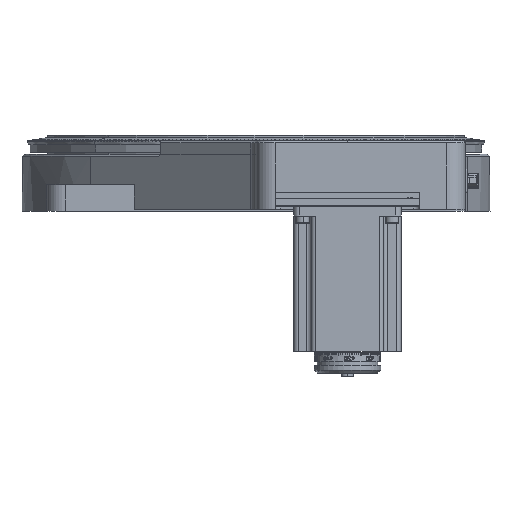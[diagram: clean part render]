
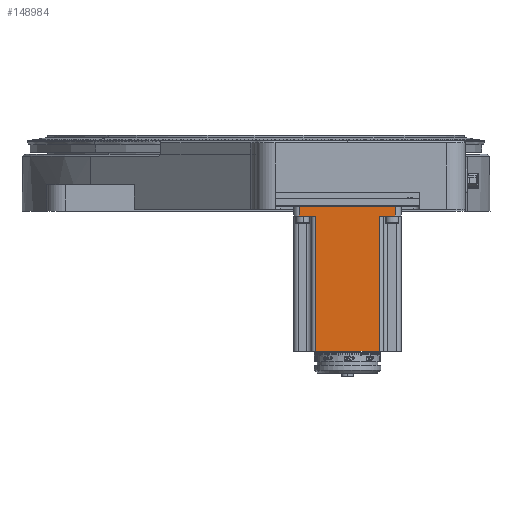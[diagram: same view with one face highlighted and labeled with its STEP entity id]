
A CAD part, left-side view. The second image highlights one B-rep face of the part: STEP entity #148984.
In plain terms, the highlighted planar face has unit normal (-1, 0, 0).
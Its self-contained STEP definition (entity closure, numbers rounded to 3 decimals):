
#148497=CARTESIAN_POINT('',(-209.2,-64.73,-73.5));
#148498=VERTEX_POINT('',#148497);
#148506=CARTESIAN_POINT('',(-209.2,-31.33,-73.5));
#148507=VERTEX_POINT('',#148506);
#148508=CARTESIAN_POINT('',(-209.2,-31.33,-73.5));
#148509=DIRECTION('',(0.0,-1.0,0.0));
#148510=VECTOR('',#148509,33.4);
#148511=LINE('',#148508,#148510);
#148512=EDGE_CURVE('',#148507,#148498,#148511,.T.);
#148854=CARTESIAN_POINT('',(-209.2,-31.33,-2.5));
#148855=VERTEX_POINT('',#148854);
#148856=CARTESIAN_POINT('',(-209.2,-31.33,-73.5));
#148857=DIRECTION('',(0.0,0.0,1.0));
#148858=VECTOR('',#148857,71.);
#148859=LINE('',#148856,#148858);
#148860=EDGE_CURVE('',#148507,#148855,#148859,.T.);
#148918=CARTESIAN_POINT('',(-209.2,-64.73,-2.5));
#148919=VERTEX_POINT('',#148918);
#148927=CARTESIAN_POINT('',(-209.2,-64.73,-2.5));
#148928=DIRECTION('',(0.0,0.0,-1.0));
#148929=VECTOR('',#148928,71.);
#148930=LINE('',#148927,#148929);
#148931=EDGE_CURVE('',#148919,#148498,#148930,.T.);
#148936=CARTESIAN_POINT('',(-209.2,-19.83,2.5));
#148937=DIRECTION('',(-1.0,0.0,0.0));
#148938=DIRECTION('',(0.0,0.0,1.0));
#148939=AXIS2_PLACEMENT_3D('',#148936,#148937,#148938);
#148940=PLANE('',#148939);
#148941=ORIENTED_EDGE('',*,*,#148860,.F.);
#148942=ORIENTED_EDGE('',*,*,#148512,.T.);
#148943=ORIENTED_EDGE('',*,*,#148931,.F.);
#148944=CARTESIAN_POINT('',(-209.2,-73.23,-2.5));
#148945=VERTEX_POINT('',#148944);
#148946=CARTESIAN_POINT('',(-209.2,-73.23,-2.5));
#148947=DIRECTION('',(0.0,1.0,0.0));
#148948=VECTOR('',#148947,8.5);
#148949=LINE('',#148946,#148948);
#148950=EDGE_CURVE('',#148945,#148919,#148949,.T.);
#148951=ORIENTED_EDGE('',*,*,#148950,.F.);
#148952=CARTESIAN_POINT('',(-209.2,-73.23,2.5));
#148953=VERTEX_POINT('',#148952);
#148954=CARTESIAN_POINT('',(-209.2,-73.23,2.5));
#148955=DIRECTION('',(0.0,0.0,-1.0));
#148956=VECTOR('',#148955,5.);
#148957=LINE('',#148954,#148956);
#148958=EDGE_CURVE('',#148953,#148945,#148957,.T.);
#148959=ORIENTED_EDGE('',*,*,#148958,.F.);
#148960=CARTESIAN_POINT('',(-209.2,-22.83,2.5));
#148961=VERTEX_POINT('',#148960);
#148962=CARTESIAN_POINT('',(-209.2,-22.83,2.5));
#148963=DIRECTION('',(0.0,-1.0,0.0));
#148964=VECTOR('',#148963,50.4);
#148965=LINE('',#148962,#148964);
#148966=EDGE_CURVE('',#148961,#148953,#148965,.T.);
#148967=ORIENTED_EDGE('',*,*,#148966,.F.);
#148968=CARTESIAN_POINT('',(-209.2,-22.83,-2.5));
#148969=VERTEX_POINT('',#148968);
#148970=CARTESIAN_POINT('',(-209.2,-22.83,-2.5));
#148971=DIRECTION('',(0.0,0.0,1.0));
#148972=VECTOR('',#148971,5.);
#148973=LINE('',#148970,#148972);
#148974=EDGE_CURVE('',#148969,#148961,#148973,.T.);
#148975=ORIENTED_EDGE('',*,*,#148974,.F.);
#148976=CARTESIAN_POINT('',(-209.2,-31.33,-2.5));
#148977=DIRECTION('',(0.0,1.0,0.0));
#148978=VECTOR('',#148977,8.5);
#148979=LINE('',#148976,#148978);
#148980=EDGE_CURVE('',#148855,#148969,#148979,.T.);
#148981=ORIENTED_EDGE('',*,*,#148980,.F.);
#148982=EDGE_LOOP('',(#148941,#148942,#148943,#148951,#148959,#148967,#148975,#148981));
#148983=FACE_OUTER_BOUND('',#148982,.T.);
#148984=ADVANCED_FACE('',(#148983),#148940,.T.);
